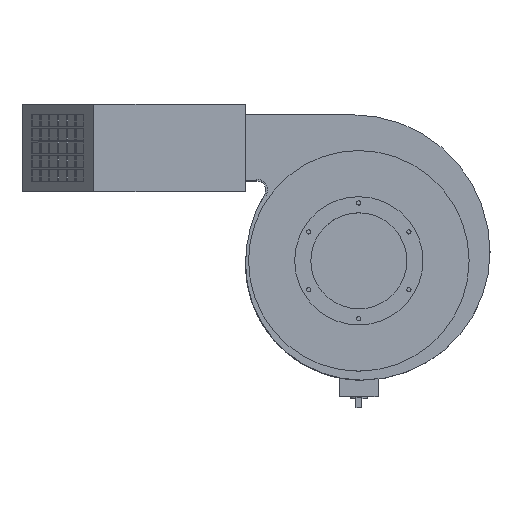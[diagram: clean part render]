
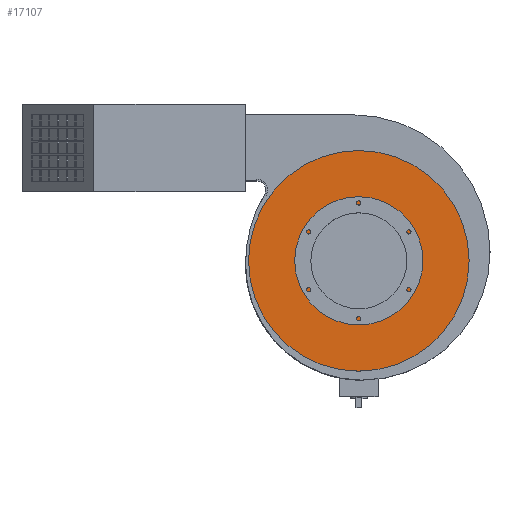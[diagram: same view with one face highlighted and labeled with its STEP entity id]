
A CAD part, top view. The second image highlights one B-rep face of the part: STEP entity #17107.
In plain terms, the highlighted planar face has unit normal (0, 0, 1).
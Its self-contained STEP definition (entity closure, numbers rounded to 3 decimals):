
#252=PLANE('',#17907);
#738=CIRCLE('',#17829,82.5);
#746=CIRCLE('',#17908,185.);
#928=FACE_BOUND('',#3256,.T.);
#2240=FACE_OUTER_BOUND('',#3255,.T.);
#3255=EDGE_LOOP('',(#14577));
#3256=EDGE_LOOP('',(#14578));
#8111=VERTEX_POINT('',#34027);
#8254=VERTEX_POINT('',#34929);
#10229=EDGE_CURVE('',#8111,#8111,#738,.T.);
#10477=EDGE_CURVE('',#8254,#8254,#746,.T.);
#14577=ORIENTED_EDGE('',*,*,#10477,.F.);
#14578=ORIENTED_EDGE('',*,*,#10229,.T.);
#17107=ADVANCED_FACE('',(#2240,#928),#252,.F.);
#17829=AXIS2_PLACEMENT_3D('',#34028,#19764,#19765);
#17907=AXIS2_PLACEMENT_3D('',#34928,#20120,#20121);
#17908=AXIS2_PLACEMENT_3D('',#34930,#20122,#20123);
#19764=DIRECTION('center_axis',(0.,0.,
-1.));
#19765=DIRECTION('ref_axis',(-1.,0.,0.));
#20120=DIRECTION('center_axis',(0.,0.,
-1.));
#20121=DIRECTION('ref_axis',(-1.,0.,0.));
#20122=DIRECTION('center_axis',(0.,0.,
-1.));
#20123=DIRECTION('ref_axis',(-1.,0.,0.));
#34027=CARTESIAN_POINT('',(0.,-82.5,105.));
#34028=CARTESIAN_POINT('Origin',(0.,0.,
105.));
#34928=CARTESIAN_POINT('Origin',(0.,0.,
105.));
#34929=CARTESIAN_POINT('',(185.,0.,105.));
#34930=CARTESIAN_POINT('Origin',(0.,0.,
105.));
